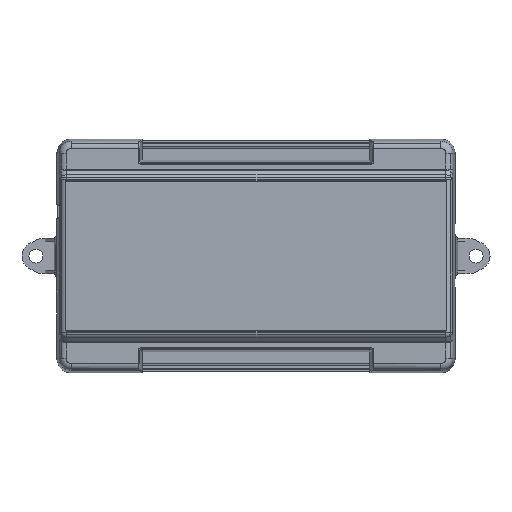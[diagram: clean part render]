
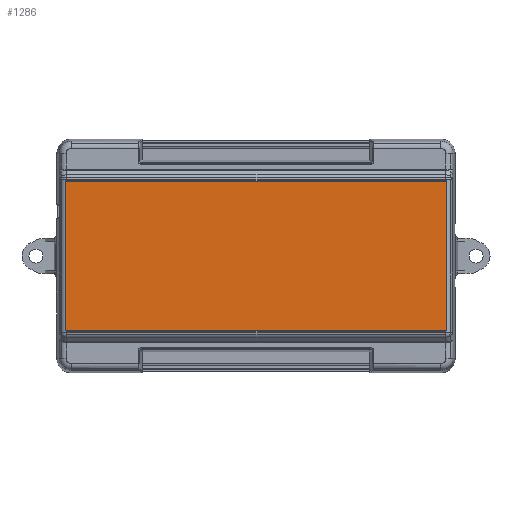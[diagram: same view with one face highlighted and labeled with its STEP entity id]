
A CAD part, top view. The second image highlights one B-rep face of the part: STEP entity #1286.
In plain terms, the highlighted planar face has unit normal (0, 0, 1).
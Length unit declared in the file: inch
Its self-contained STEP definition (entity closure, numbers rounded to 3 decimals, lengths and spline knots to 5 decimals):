
#1286=ADVANCED_FACE('',(#3159),#3160,.T.);
#3159=FACE_OUTER_BOUND('',#6530,.T.);
#3160=PLANE('',#6531);
#6530=EDGE_LOOP('',(#12065,#12066,#12067,#12068,#12069,#12070,#12071,#12072));
#6531=AXIS2_PLACEMENT_3D('',#12073,#12074,#12075);
#12065=ORIENTED_EDGE('',*,*,#18846,.F.);
#12066=ORIENTED_EDGE('',*,*,#18359,.F.);
#12067=ORIENTED_EDGE('',*,*,#18847,.F.);
#12068=ORIENTED_EDGE('',*,*,#18848,.F.);
#12069=ORIENTED_EDGE('',*,*,#18849,.F.);
#12070=ORIENTED_EDGE('',*,*,#18850,.F.);
#12071=ORIENTED_EDGE('',*,*,#17878,.F.);
#12072=ORIENTED_EDGE('',*,*,#18851,.F.);
#12073=CARTESIAN_POINT('',(0.00249,0.10614,0.02677));
#12074=DIRECTION('',(0.,0.,1.0));
#12075=DIRECTION('',(1.0,0.,0.));
#17878=EDGE_CURVE('',#21027,#21016,#21029,.T.);
#18359=EDGE_CURVE('',#21863,#21865,#21866,.T.);
#18846=EDGE_CURVE('',#21865,#22660,#22661,.T.);
#18847=EDGE_CURVE('',#22662,#21863,#22663,.T.);
#18848=EDGE_CURVE('',#22664,#22662,#22665,.T.);
#18849=EDGE_CURVE('',#22666,#22664,#22667,.T.);
#18850=EDGE_CURVE('',#21016,#22666,#22668,.T.);
#18851=EDGE_CURVE('',#22660,#21027,#22669,.T.);
#21016=VERTEX_POINT('',#25519);
#21027=VERTEX_POINT('',#25530);
#21029=CIRCLE('',#25532,0.00039);
#21863=VERTEX_POINT('',#26706);
#21865=VERTEX_POINT('',#26708);
#21866=LINE('',#26709,#26710);
#22660=VERTEX_POINT('',#27829);
#22661=CIRCLE('',#27830,0.00039);
#22662=VERTEX_POINT('',#27831);
#22663=CIRCLE('',#27832,0.00039);
#22664=VERTEX_POINT('',#27833);
#22665=LINE('',#27834,#27835);
#22666=VERTEX_POINT('',#27836);
#22667=CIRCLE('',#27837,0.00039);
#22668=LINE('',#27838,#27839);
#22669=LINE('',#27840,#27841);
#25519=CARTESIAN_POINT('',(0.21719,0.02182,0.02677));
#25530=CARTESIAN_POINT('',(0.21759,0.02221,0.02677));
#25532=AXIS2_PLACEMENT_3D('',#31694,#31695,#31696);
#26706=CARTESIAN_POINT('',(0.00328,0.10574,0.02677));
#26708=CARTESIAN_POINT('',(0.21719,0.10574,0.02677));
#26709=CARTESIAN_POINT('',(0.05636,0.10574,0.02677));
#26710=VECTOR('',#32452,1.);
#27829=CARTESIAN_POINT('',(0.21759,0.10535,0.02677));
#27830=AXIS2_PLACEMENT_3D('',#33184,#33185,#33186);
#27831=CARTESIAN_POINT('',(0.00289,0.10535,0.02677));
#27832=AXIS2_PLACEMENT_3D('',#33187,#33188,#33189);
#27833=CARTESIAN_POINT('',(0.00289,0.02221,0.02677));
#27834=CARTESIAN_POINT('',(0.00289,0.08496,0.02677));
#27835=VECTOR('',#33190,1.);
#27836=CARTESIAN_POINT('',(0.00328,0.02182,0.02677));
#27837=AXIS2_PLACEMENT_3D('',#33191,#33192,#33193);
#27838=CARTESIAN_POINT('',(0.05636,0.02182,0.02677));
#27839=VECTOR('',#33194,1.);
#27840=CARTESIAN_POINT('',(0.21759,0.08496,0.02677));
#27841=VECTOR('',#33195,1.);
#31694=CARTESIAN_POINT('',(0.21719,0.02221,0.02677));
#31695=DIRECTION('',(0.,0.,-1.0));
#31696=DIRECTION('',(0.707,-0.707,0.));
#32452=DIRECTION('',(1.0,0.,0.));
#33184=CARTESIAN_POINT('',(0.21719,0.10535,0.02677));
#33185=DIRECTION('',(0.,0.,-1.0));
#33186=DIRECTION('',(0.707,0.707,0.));
#33187=CARTESIAN_POINT('',(0.00328,0.10535,0.02677));
#33188=DIRECTION('',(0.,0.,-1.0));
#33189=DIRECTION('',(-0.707,0.707,0.));
#33190=DIRECTION('',(0.,1.0,0.));
#33191=CARTESIAN_POINT('',(0.00328,0.02221,0.02677));
#33192=DIRECTION('',(0.,0.,-1.0));
#33193=DIRECTION('',(-0.707,-0.707,0.));
#33194=DIRECTION('',(-1.0,0.,0.));
#33195=DIRECTION('',(0.,-1.0,0.));
